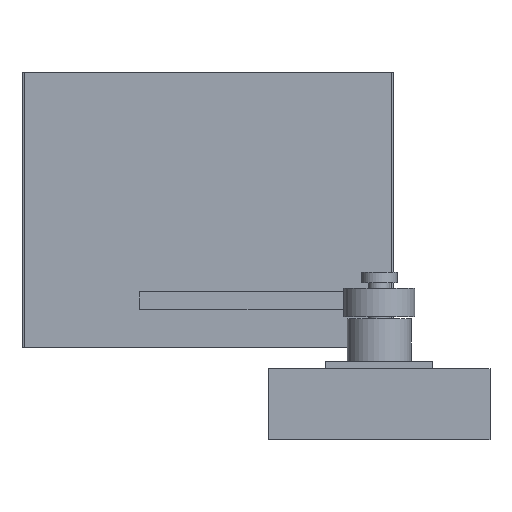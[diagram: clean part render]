
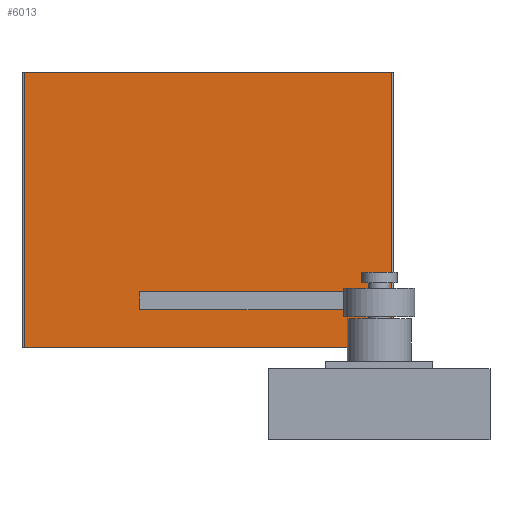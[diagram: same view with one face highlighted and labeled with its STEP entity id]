
A CAD part, left-side view. The second image highlights one B-rep face of the part: STEP entity #6013.
In plain terms, the highlighted planar face has unit normal (-1, 0, 0).
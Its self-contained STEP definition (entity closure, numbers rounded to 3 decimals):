
#6013 = ADVANCED_FACE('',(#6014),#6028,.F.);
#6014 = FACE_BOUND('',#6015,.F.);
#6015 = EDGE_LOOP('',(#6016,#6051,#6079,#6107));
#6016 = ORIENTED_EDGE('',*,*,#6017,.F.);
#6017 = EDGE_CURVE('',#6018,#6020,#6022,.T.);
#6018 = VERTEX_POINT('',#6019);
#6019 = CARTESIAN_POINT('',(86.,-3.4,103.));
#6020 = VERTEX_POINT('',#6021);
#6021 = CARTESIAN_POINT('',(86.,99.4,103.));
#6022 = SURFACE_CURVE('',#6023,(#6027,#6039),.PCURVE_S1.);
#6023 = LINE('',#6024,#6025);
#6024 = CARTESIAN_POINT('',(86.,-4.,103.));
#6025 = VECTOR('',#6026,1.);
#6026 = DIRECTION('',(0.,1.,0.));
#6027 = PCURVE('',#6028,#6033);
#6028 = PLANE('',#6029);
#6029 = AXIS2_PLACEMENT_3D('',#6030,#6031,#6032);
#6030 = CARTESIAN_POINT('',(86.,-4.,26.));
#6031 = DIRECTION('',(1.,0.,0.));
#6032 = DIRECTION('',(0.,0.,1.));
#6033 = DEFINITIONAL_REPRESENTATION('',(#6034),#6038);
#6034 = LINE('',#6035,#6036);
#6035 = CARTESIAN_POINT('',(77.,0.));
#6036 = VECTOR('',#6037,1.);
#6037 = DIRECTION('',(0.,-1.));
#6038 = ( GEOMETRIC_REPRESENTATION_CONTEXT(2) 
PARAMETRIC_REPRESENTATION_CONTEXT() REPRESENTATION_CONTEXT('2D SPACE',''
  ) );
#6039 = PCURVE('',#6040,#6045);
#6040 = PLANE('',#6041);
#6041 = AXIS2_PLACEMENT_3D('',#6042,#6043,#6044);
#6042 = CARTESIAN_POINT('',(86.,-4.,103.));
#6043 = DIRECTION('',(0.,0.,1.));
#6044 = DIRECTION('',(1.,0.,0.));
#6045 = DEFINITIONAL_REPRESENTATION('',(#6046),#6050);
#6046 = LINE('',#6047,#6048);
#6047 = CARTESIAN_POINT('',(0.,0.));
#6048 = VECTOR('',#6049,1.);
#6049 = DIRECTION('',(0.,1.));
#6050 = ( GEOMETRIC_REPRESENTATION_CONTEXT(2) 
PARAMETRIC_REPRESENTATION_CONTEXT() REPRESENTATION_CONTEXT('2D SPACE',''
  ) );
#6051 = ORIENTED_EDGE('',*,*,#6052,.F.);
#6052 = EDGE_CURVE('',#6053,#6018,#6055,.T.);
#6053 = VERTEX_POINT('',#6054);
#6054 = CARTESIAN_POINT('',(86.,-3.4,26.));
#6055 = SURFACE_CURVE('',#6056,(#6060,#6067),.PCURVE_S1.);
#6056 = LINE('',#6057,#6058);
#6057 = CARTESIAN_POINT('',(86.,-3.4,26.));
#6058 = VECTOR('',#6059,1.);
#6059 = DIRECTION('',(0.,0.,1.));
#6060 = PCURVE('',#6028,#6061);
#6061 = DEFINITIONAL_REPRESENTATION('',(#6062),#6066);
#6062 = LINE('',#6063,#6064);
#6063 = CARTESIAN_POINT('',(0.,-0.6));
#6064 = VECTOR('',#6065,1.);
#6065 = DIRECTION('',(1.,0.));
#6066 = ( GEOMETRIC_REPRESENTATION_CONTEXT(2) 
PARAMETRIC_REPRESENTATION_CONTEXT() REPRESENTATION_CONTEXT('2D SPACE',''
  ) );
#6067 = PCURVE('',#6068,#6073);
#6068 = CYLINDRICAL_SURFACE('',#6069,0.6);
#6069 = AXIS2_PLACEMENT_3D('',#6070,#6071,#6072);
#6070 = CARTESIAN_POINT('',(86.6,-3.4,26.));
#6071 = DIRECTION('',(0.,0.,1.));
#6072 = DIRECTION('',(-1.,0.,0.));
#6073 = DEFINITIONAL_REPRESENTATION('',(#6074),#6078);
#6074 = LINE('',#6075,#6076);
#6075 = CARTESIAN_POINT('',(0.,0.));
#6076 = VECTOR('',#6077,1.);
#6077 = DIRECTION('',(0.,1.));
#6078 = ( GEOMETRIC_REPRESENTATION_CONTEXT(2) 
PARAMETRIC_REPRESENTATION_CONTEXT() REPRESENTATION_CONTEXT('2D SPACE',''
  ) );
#6079 = ORIENTED_EDGE('',*,*,#6080,.T.);
#6080 = EDGE_CURVE('',#6053,#6081,#6083,.T.);
#6081 = VERTEX_POINT('',#6082);
#6082 = CARTESIAN_POINT('',(86.,99.4,26.));
#6083 = SURFACE_CURVE('',#6084,(#6088,#6095),.PCURVE_S1.);
#6084 = LINE('',#6085,#6086);
#6085 = CARTESIAN_POINT('',(86.,-4.,26.));
#6086 = VECTOR('',#6087,1.);
#6087 = DIRECTION('',(0.,1.,0.));
#6088 = PCURVE('',#6028,#6089);
#6089 = DEFINITIONAL_REPRESENTATION('',(#6090),#6094);
#6090 = LINE('',#6091,#6092);
#6091 = CARTESIAN_POINT('',(0.,0.));
#6092 = VECTOR('',#6093,1.);
#6093 = DIRECTION('',(0.,-1.));
#6094 = ( GEOMETRIC_REPRESENTATION_CONTEXT(2) 
PARAMETRIC_REPRESENTATION_CONTEXT() REPRESENTATION_CONTEXT('2D SPACE',''
  ) );
#6095 = PCURVE('',#6096,#6101);
#6096 = PLANE('',#6097);
#6097 = AXIS2_PLACEMENT_3D('',#6098,#6099,#6100);
#6098 = CARTESIAN_POINT('',(86.,-4.,26.));
#6099 = DIRECTION('',(0.,0.,1.));
#6100 = DIRECTION('',(1.,0.,0.));
#6101 = DEFINITIONAL_REPRESENTATION('',(#6102),#6106);
#6102 = LINE('',#6103,#6104);
#6103 = CARTESIAN_POINT('',(0.,0.));
#6104 = VECTOR('',#6105,1.);
#6105 = DIRECTION('',(0.,1.));
#6106 = ( GEOMETRIC_REPRESENTATION_CONTEXT(2) 
PARAMETRIC_REPRESENTATION_CONTEXT() REPRESENTATION_CONTEXT('2D SPACE',''
  ) );
#6107 = ORIENTED_EDGE('',*,*,#6108,.T.);
#6108 = EDGE_CURVE('',#6081,#6020,#6109,.T.);
#6109 = SURFACE_CURVE('',#6110,(#6114,#6121),.PCURVE_S1.);
#6110 = LINE('',#6111,#6112);
#6111 = CARTESIAN_POINT('',(86.,99.4,26.));
#6112 = VECTOR('',#6113,1.);
#6113 = DIRECTION('',(0.,0.,1.));
#6114 = PCURVE('',#6028,#6115);
#6115 = DEFINITIONAL_REPRESENTATION('',(#6116),#6120);
#6116 = LINE('',#6117,#6118);
#6117 = CARTESIAN_POINT('',(0.,-103.4));
#6118 = VECTOR('',#6119,1.);
#6119 = DIRECTION('',(1.,0.));
#6120 = ( GEOMETRIC_REPRESENTATION_CONTEXT(2) 
PARAMETRIC_REPRESENTATION_CONTEXT() REPRESENTATION_CONTEXT('2D SPACE',''
  ) );
#6121 = PCURVE('',#6122,#6127);
#6122 = CYLINDRICAL_SURFACE('',#6123,0.6);
#6123 = AXIS2_PLACEMENT_3D('',#6124,#6125,#6126);
#6124 = CARTESIAN_POINT('',(86.6,99.4,26.));
#6125 = DIRECTION('',(0.,0.,1.));
#6126 = DIRECTION('',(-1.,0.,0.));
#6127 = DEFINITIONAL_REPRESENTATION('',(#6128),#6132);
#6128 = LINE('',#6129,#6130);
#6129 = CARTESIAN_POINT('',(-0.,0.));
#6130 = VECTOR('',#6131,1.);
#6131 = DIRECTION('',(-0.,1.));
#6132 = ( GEOMETRIC_REPRESENTATION_CONTEXT(2) 
PARAMETRIC_REPRESENTATION_CONTEXT() REPRESENTATION_CONTEXT('2D SPACE',''
  ) );
